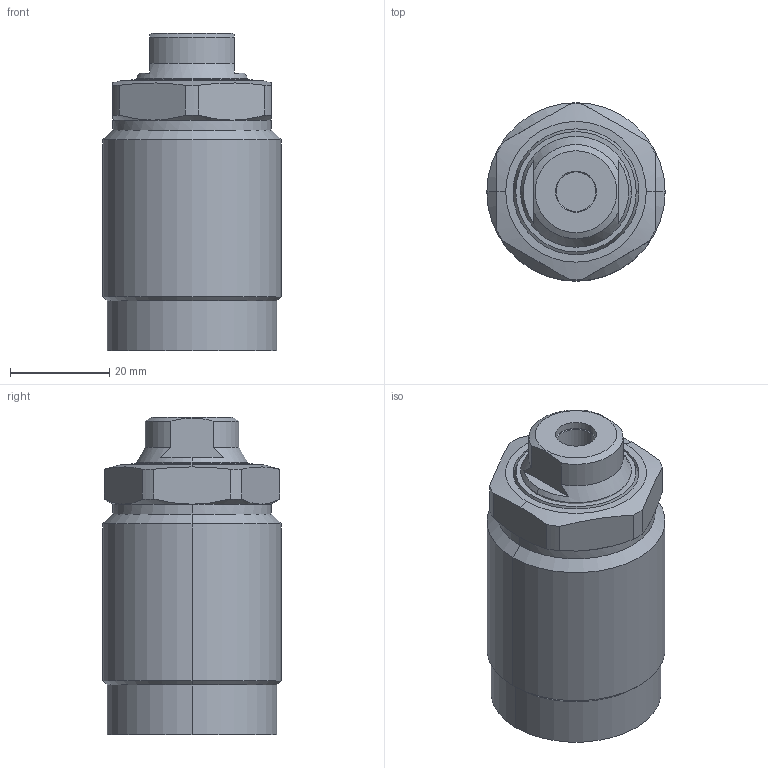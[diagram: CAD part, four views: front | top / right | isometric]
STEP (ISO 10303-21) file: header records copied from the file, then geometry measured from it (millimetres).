
FILE_DESCRIPTION((' '),'2;1');
FILE_NAME( 'TGP36-AM.x_t.stp', '2025-02-10T16:03:54', (' '), ('--- Datakit www.datakit.com---'), ' Datakit CrossCadWare V2024.1 Dec 21 2023', 'Mastercam 2025', ' ');
FILE_SCHEMA(('AUTOMOTIVE_DESIGN { 1 0 10303 214 1 1 1 1 }'));
Length unit declared in the file: millimetre
Products named in the file (1): TGP36-AM
Bounding box: 36 x 36 x 64 mm (x, y, z)
Volume: 60257 mm3; surface area: 11355 mm2
Topology: 2 solids, 2 shells, 78 faces, 195 edges, 128 vertices
Faces by surface type: cylinder 34, plane 22, cone 18, torus 4
Entity records: 2496 total; most frequent: CARTESIAN_POINT 578, DIRECTION 416, ORIENTED_EDGE 386, EDGE_CURVE 193, AXIS2_PLACEMENT_3D 174, VERTEX_POINT 128, CIRCLE 95, EDGE_LOOP 87
